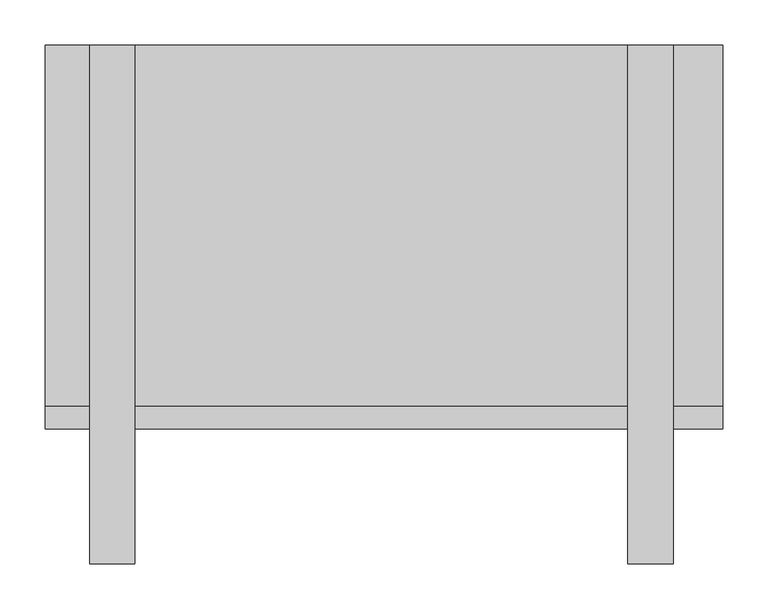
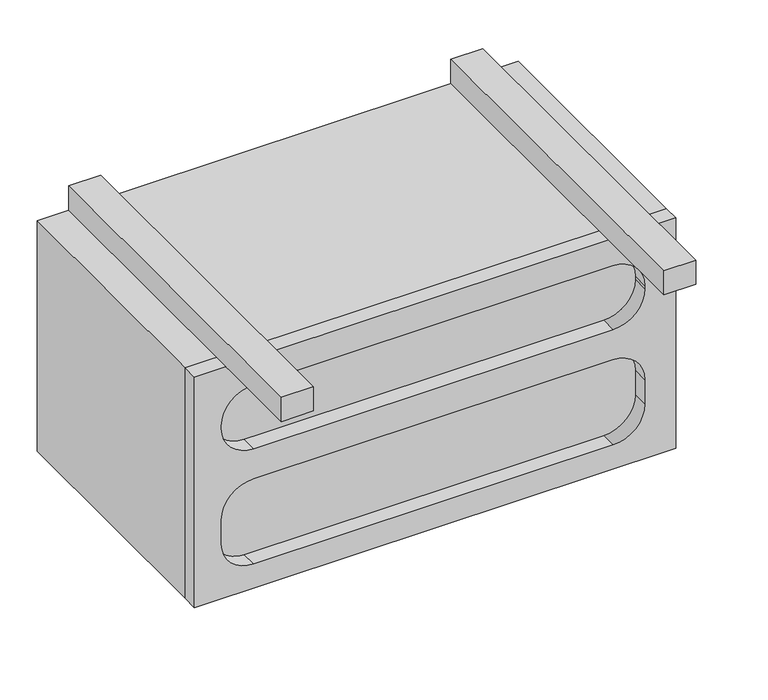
"""IFC4 building model written with IfcOpenShell, lengths in millimetres: furniture geometry, BIMHealth-Operators Console-LOD2A-v1 : BIMHealth-Operators Console-LOD2A-v1."""

from ifc_helpers import new_model, si_unit, point, frame, frame_2d, origin, place, context, project, spatial, polyline, circle_curve, trimmed, segment, composite_curve, outline, extrude, source, transform, mapped, element, save


def furniture_97fe266c(model_context):
    return source(origin(), model_context, "Body", "SweptSolid", [
        extrude(outline(polyline([(-54.9598993, -74.3249358), (-104.9598993, -74.3249358), (-104.9598993, 500.0), (-54.9598993, 500.0), (-54.9598993, -74.3249358)])), frame((0.0, 0.0, 630.0), z_axis=(0.0, 0.0, 1.0), x_axis=(1.0, 0.0, 0.0)), (0.0, 0.0, 1.0), 40.0),
        extrude(outline(polyline([(-650.8100976, -74.3249358), (-700.8100976, -74.3249358), (-700.8100976, 500.0), (-650.8100976, 500.0), (-650.8100976, -74.3249358)])), frame((0.0, 0.0, 630.0), z_axis=(0.0, 0.0, 1.0), x_axis=(1.0, 0.0, 0.0)), (0.0, 0.0, 1.0), 40.0),
        extrude(outline(polyline([(630.0, 0.0), (630.0, -750.0), (250.0, -750.0), (250.0, 0.0), (630.0, 0.0)]), holes=[composite_curve([segment(polyline([(289.8762789, -97.8849985), (289.8762789, -657.8849985)]), True, "CONTINUOUS"), segment(trimmed(circle_curve(frame_2d((339.8762789, -657.8849985)), 50.0), [point((289.8762789, -657.8849985))], [point((339.8762789, -707.8849985))], True, "CARTESIAN"), True, "CONTINUOUS"), segment(polyline([(339.8762789, -707.8849985), (379.8762789, -707.8849985)]), True, "CONTINUOUS"), segment(trimmed(circle_curve(frame_2d((379.8762789, -657.8849985)), 50.0), [point((379.8762789, -707.8849985))], [point((429.8762789, -657.8849985))], True, "CARTESIAN"), True, "CONTINUOUS"), segment(polyline([(429.8762789, -657.8849985), (429.8762789, -97.8849985)]), True, "CONTINUOUS"), segment(trimmed(circle_curve(frame_2d((379.8762789, -97.8849985)), 50.0), [point((429.8762789, -97.8849985))], [point((379.8762789, -47.8849985))], True, "CARTESIAN"), True, "CONTINUOUS"), segment(polyline([(379.8762789, -47.8849985), (339.8762789, -47.8849985)]), True, "CONTINUOUS"), segment(trimmed(circle_curve(frame_2d((339.8762789, -97.8849985)), 50.0), [point((339.8762789, -47.8849985))], [point((289.8762789, -97.8849985))], True, "CARTESIAN"), True, "CONTINUOUS")], self_intersect=False), composite_curve([segment(polyline([(479.8762789, -97.8849985), (479.8762789, -657.8849985)]), True, "CONTINUOUS"), segment(trimmed(circle_curve(frame_2d((529.8762789, -657.8849985)), 50.0), [point((479.8762789, -657.8849985))], [point((529.8762789, -707.8849985))], True, "CARTESIAN"), True, "CONTINUOUS"), segment(polyline([(529.8762789, -707.8849985), (534.8762789, -707.8849985)]), True, "CONTINUOUS"), segment(trimmed(circle_curve(frame_2d((534.8762789, -657.8849985)), 50.0), [point((534.8762789, -707.8849985))], [point((584.8762789, -657.8849985))], True, "CARTESIAN"), True, "CONTINUOUS"), segment(polyline([(584.8762789, -657.8849985), (584.8762789, -97.8849985)]), True, "CONTINUOUS"), segment(trimmed(circle_curve(frame_2d((534.8762789, -97.8849985)), 50.0), [point((584.8762789, -97.8849985))], [point((534.8762789, -47.8849985))], True, "CARTESIAN"), True, "CONTINUOUS"), segment(polyline([(534.8762789, -47.8849985), (529.8762789, -47.8849985)]), True, "CONTINUOUS"), segment(trimmed(circle_curve(frame_2d((529.8762789, -97.8849985)), 50.0), [point((529.8762789, -47.8849985))], [point((479.8762789, -97.8849985))], True, "CARTESIAN"), True, "CONTINUOUS")], self_intersect=False)]), frame((0.0, 75.0, 0.0), z_axis=(0.0, 1.0, 0.0), x_axis=(0.0, 0.0, 1.0)), (0.0, 0.0, 1.0), 25.0),
        extrude(outline(polyline([(0.0, 100.0), (-750.0, 100.0), (-750.0, 500.0), (0.0, 500.0), (0.0, 100.0)])), frame((0.0, 0.0, 250.0), z_axis=(0.0, 0.0, 1.0), x_axis=(1.0, 0.0, 0.0)), (0.0, 0.0, 1.0), 380.0),
    ])


if __name__ == "__main__":
    model = new_model("IFC4")
    model_context = context("Model", 3, world=origin())
    ifc_project = project(units=[si_unit("LENGTHUNIT", "METRE", prefix="MILLI")], contexts=[model_context])
    site = spatial("IfcSite", under=ifc_project)
    building = spatial("IfcBuilding", under=site)
    placement = place(None, origin())
    furniture_shape = furniture_97fe266c(model_context)
    element("IfcFurniture", 1, ObjectType="BIMHealth-Operators Console-LOD2A-v1 : BIMHealth-Operators Console-LOD2A-v1", at=placement, inside=building, context=model_context, shape_type="MappedRepresentation", body=[
        mapped(furniture_shape, transform((0.0, 0.0, 0.0), x_axis=(1.0, 0.0, 0.0), y_axis=(0.0, 1.0, 0.0), z_axis=(0.0, 0.0, 1.0))),
    ])
    save(model, "model.ifc")
